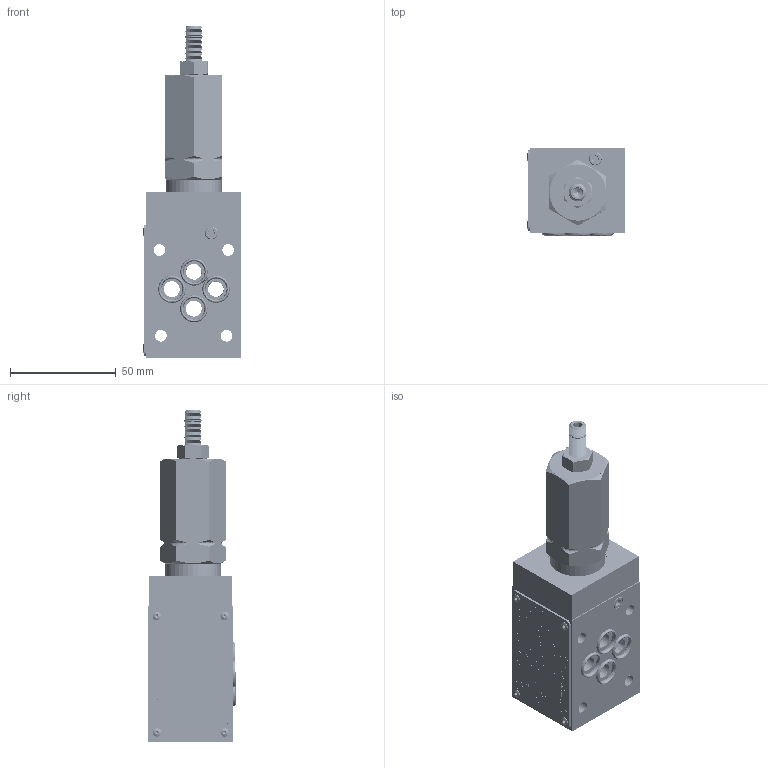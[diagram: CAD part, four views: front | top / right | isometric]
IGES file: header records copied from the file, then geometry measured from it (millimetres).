
Start section: SolidWorks IGES file using analytic representation for surfaces
Global section: file name: C:\Users\pc-te25\Desktop\ASSIEME 379-4-B.IGS; native system: SolidWorks 2018; preprocessor: SolidWorks 2018; author: pc-te25; date: 191014.105124; units: millimetre
Bounding box: 46.66 x 41.17 x 156.8 mm (x, y, z)
Surface area: 57182.1 mm2 (no closed solid volume)
Topology: 0 solids, 0 shells, 2550 faces, 26750 edges, 26731 vertices
Faces by surface type: bspline 1599, revolution 951
